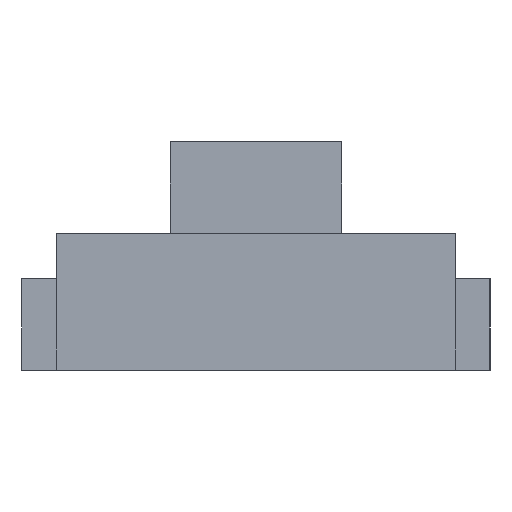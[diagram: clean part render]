
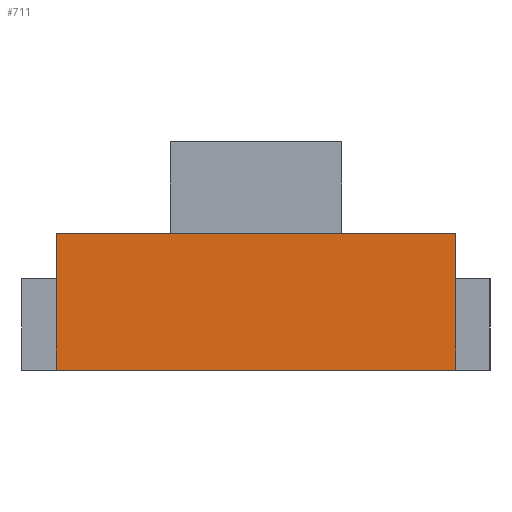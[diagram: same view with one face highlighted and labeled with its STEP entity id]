
A CAD part, left-side view. The second image highlights one B-rep face of the part: STEP entity #711.
In plain terms, the highlighted planar face has unit normal (-1, 0, 0).
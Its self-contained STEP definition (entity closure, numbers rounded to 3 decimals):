
#189 = VERTEX_POINT('',#190);
#190 = CARTESIAN_POINT('',(-18.6,-28.225,74.025));
#196 = EDGE_CURVE('',#189,#197,#199,.T.);
#197 = VERTEX_POINT('',#198);
#198 = CARTESIAN_POINT('',(-18.6,-28.225,76.425));
#199 = LINE('',#200,#201);
#200 = CARTESIAN_POINT('',(-18.6,-28.225,74.025));
#201 = VECTOR('',#202,1.);
#202 = DIRECTION('',(0.,0.,1.));
#666 = VERTEX_POINT('',#667);
#667 = CARTESIAN_POINT('',(-18.6,-21.225,76.425));
#673 = EDGE_CURVE('',#197,#666,#674,.T.);
#674 = LINE('',#675,#676);
#675 = CARTESIAN_POINT('',(-18.6,-28.225,76.425));
#676 = VECTOR('',#677,1.);
#677 = DIRECTION('',(0.,1.,0.));
#711 = ADVANCED_FACE('',(#712),#730,.F.);
#712 = FACE_BOUND('',#713,.F.);
#713 = EDGE_LOOP('',(#714,#715,#723,#729));
#714 = ORIENTED_EDGE('',*,*,#196,.F.);
#715 = ORIENTED_EDGE('',*,*,#716,.T.);
#716 = EDGE_CURVE('',#189,#717,#719,.T.);
#717 = VERTEX_POINT('',#718);
#718 = CARTESIAN_POINT('',(-18.6,-21.225,74.025));
#719 = LINE('',#720,#721);
#720 = CARTESIAN_POINT('',(-18.6,-28.225,74.025));
#721 = VECTOR('',#722,1.);
#722 = DIRECTION('',(0.,1.,0.));
#723 = ORIENTED_EDGE('',*,*,#724,.T.);
#724 = EDGE_CURVE('',#717,#666,#725,.T.);
#725 = LINE('',#726,#727);
#726 = CARTESIAN_POINT('',(-18.6,-21.225,74.025));
#727 = VECTOR('',#728,1.);
#728 = DIRECTION('',(0.,0.,1.));
#729 = ORIENTED_EDGE('',*,*,#673,.F.);
#730 = PLANE('',#731);
#731 = AXIS2_PLACEMENT_3D('',#732,#733,#734);
#732 = CARTESIAN_POINT('',(-18.6,-28.225,74.025));
#733 = DIRECTION('',(1.,0.,0.));
#734 = DIRECTION('',(0.,0.,1.));
